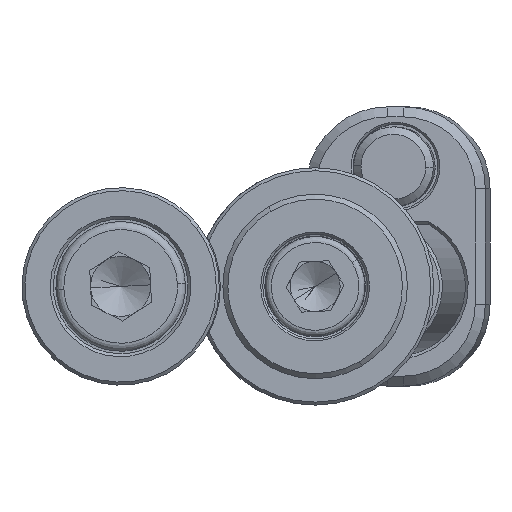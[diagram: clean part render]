
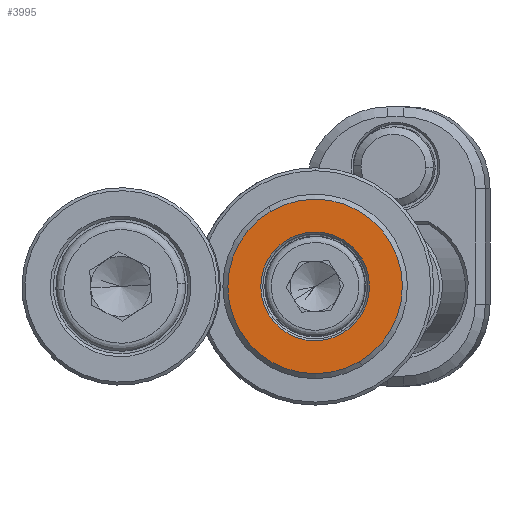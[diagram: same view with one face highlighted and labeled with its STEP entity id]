
A CAD part, front view. The second image highlights one B-rep face of the part: STEP entity #3995.
In plain terms, the highlighted planar face has unit normal (0, -1, 0).
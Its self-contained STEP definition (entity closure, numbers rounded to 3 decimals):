
#61 = CARTESIAN_POINT ( 'NONE',  ( 0., -4., 0. ) ) ;
#355 = CIRCLE ( 'NONE', #7757, 8.75 ) ;
#715 = ORIENTED_EDGE ( 'NONE', *, *, #5809, .T. ) ;
#1402 = DIRECTION ( 'NONE',  ( -0.505, 0., 0.863 ) ) ;
#1870 = DIRECTION ( 'NONE',  ( -0.505, 0., 0.863 ) ) ;
#2274 = EDGE_CURVE ( 'NONE', #5223, #7570, #5950, .T. ) ;
#2328 = DIRECTION ( 'NONE',  ( -0.505, 0., 0.863 ) ) ;
#2409 = CARTESIAN_POINT ( 'NONE',  ( 4.42, -4., -7.552 ) ) ;
#2708 = CARTESIAN_POINT ( 'NONE',  ( 2.753, -4., -4.704 ) ) ;
#2861 = ORIENTED_EDGE ( 'NONE', *, *, #7128, .T. ) ;
#3311 = EDGE_LOOP ( 'NONE', ( #715, #5748 ) ) ;
#3473 = CARTESIAN_POINT ( 'NONE',  ( -4.531, -4., -2.652 ) ) ;
#3964 = DIRECTION ( 'NONE',  ( 0., -1., 0. ) ) ;
#3995 = ADVANCED_FACE ( 'NONE', ( #8989, #6502 ), #8784, .F. ) ;
#4778 = AXIS2_PLACEMENT_3D ( 'NONE', #61, #12242, #2328 ) ;
#5223 = VERTEX_POINT ( 'NONE', #2409 ) ;
#5523 = CARTESIAN_POINT ( 'NONE',  ( -2.753, -4., 4.704 ) ) ;
#5748 = ORIENTED_EDGE ( 'NONE', *, *, #11368, .T. ) ;
#5809 = EDGE_CURVE ( 'NONE', #14223, #10451, #9657, .T. ) ;
#5950 = CIRCLE ( 'NONE', #14068, 8.75 ) ;
#5951 = AXIS2_PLACEMENT_3D ( 'NONE', #3473, #8904, #11225 ) ;
#6502 = FACE_OUTER_BOUND ( 'NONE', #8811, .T. ) ;
#6794 = AXIS2_PLACEMENT_3D ( 'NONE', #13600, #13448, #8980 ) ;
#7128 = EDGE_CURVE ( 'NONE', #7570, #5223, #355, .T. ) ;
#7523 = ORIENTED_EDGE ( 'NONE', *, *, #2274, .T. ) ;
#7570 = VERTEX_POINT ( 'NONE', #13229 ) ;
#7757 = AXIS2_PLACEMENT_3D ( 'NONE', #10589, #3964, #1870 ) ;
#8581 = CARTESIAN_POINT ( 'NONE',  ( 0., -4., 0. ) ) ;
#8784 = PLANE ( 'NONE',  #5951 ) ;
#8811 = EDGE_LOOP ( 'NONE', ( #2861, #7523 ) ) ;
#8904 = DIRECTION ( 'NONE',  ( 0., 1., 0. ) ) ;
#8980 = DIRECTION ( 'NONE',  ( -0.505, 0., 0.863 ) ) ;
#8989 = FACE_BOUND ( 'NONE', #3311, .T. ) ;
#9657 = CIRCLE ( 'NONE', #4778, 5.45 ) ;
#10181 = DIRECTION ( 'NONE',  ( 0., -1., 0. ) ) ;
#10451 = VERTEX_POINT ( 'NONE', #5523 ) ;
#10589 = CARTESIAN_POINT ( 'NONE',  ( 0., -4., 0. ) ) ;
#10762 = CIRCLE ( 'NONE', #6794, 5.45 ) ;
#11225 = DIRECTION ( 'NONE',  ( -0.505, 0., 0.863 ) ) ;
#11368 = EDGE_CURVE ( 'NONE', #10451, #14223, #10762, .T. ) ;
#12242 = DIRECTION ( 'NONE',  ( 0., 1., 0. ) ) ;
#13229 = CARTESIAN_POINT ( 'NONE',  ( -4.42, -4., 7.552 ) ) ;
#13448 = DIRECTION ( 'NONE',  ( 0., 1., 0. ) ) ;
#13600 = CARTESIAN_POINT ( 'NONE',  ( 0., -4., 0. ) ) ;
#14068 = AXIS2_PLACEMENT_3D ( 'NONE', #8581, #10181, #1402 ) ;
#14223 = VERTEX_POINT ( 'NONE', #2708 ) ;
